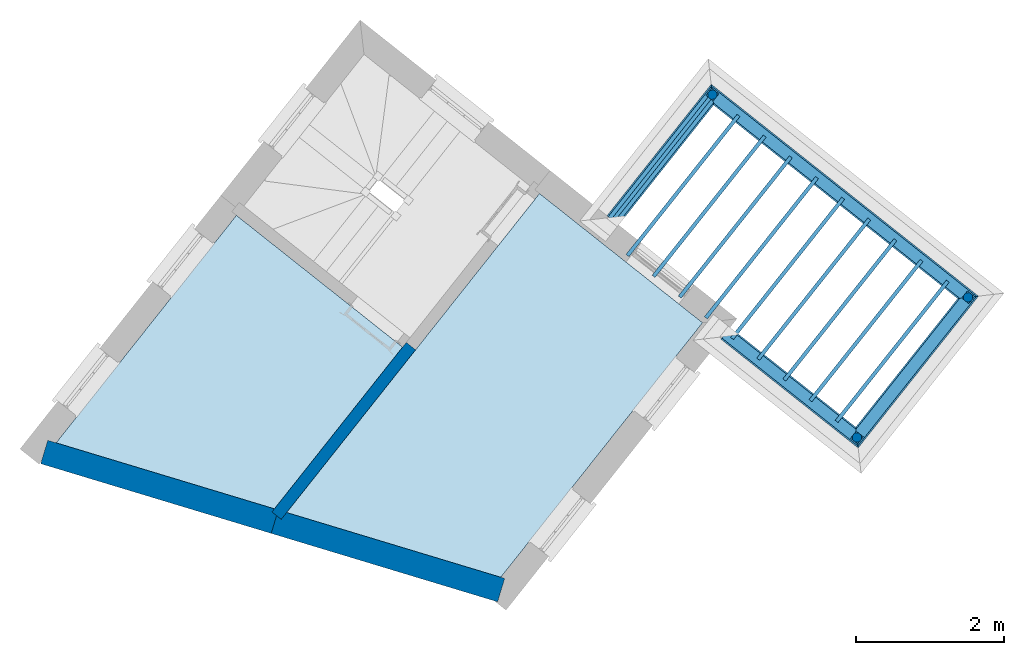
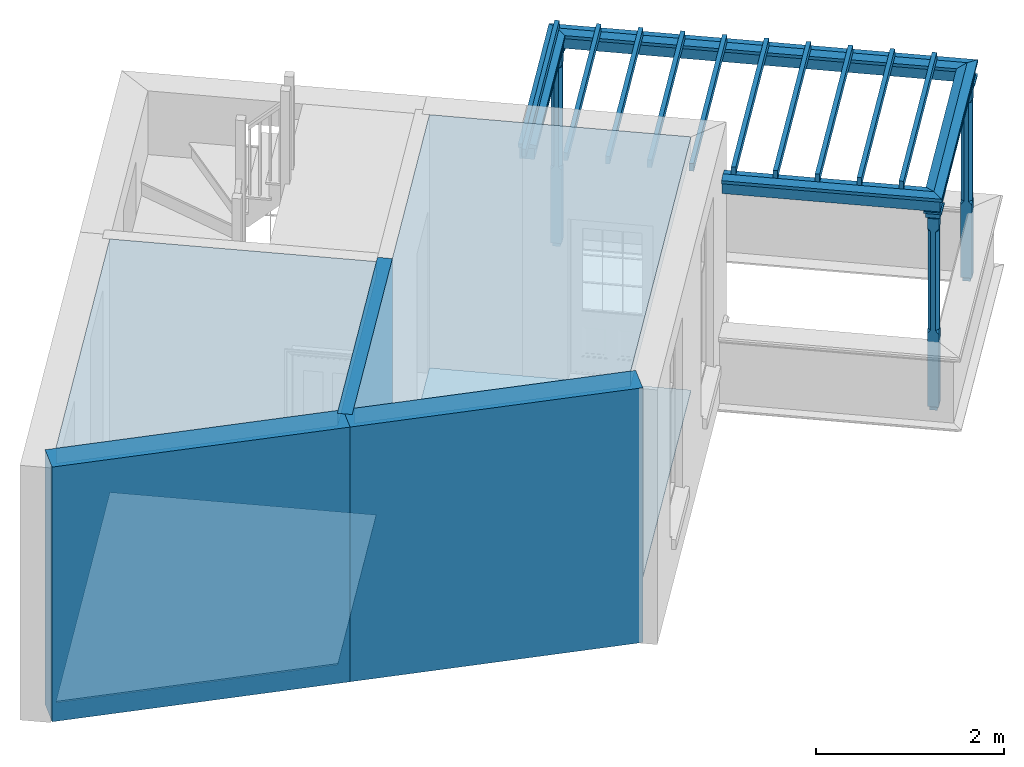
# One storey, part 1 of 6: 18 beams, 4 slabs, 3 columns, 3 walls.
"""IFC4 building model written with IfcOpenShell, lengths in metres."""

from ifc_helpers import new_model, si_unit, frame, origin, origin_with_axes, place, context, subcontext, project, spatial, polyline, outline, extrude, clip, halfspace, faceted_brep, source, transform, mapped, material, layer, layer_set, layer_usage, material_profile, profile_set, profile_usage, type_object, type_shapes, element, save


model = new_model("IFC4")

# Units and contexts
model_context = context("Model", 3, world=origin_with_axes())
body_context = subcontext(model_context, "Body", "Model", "MODEL_VIEW")
ifc_project = project(units=[si_unit("PLANEANGLEUNIT", "RADIAN"), si_unit("MASSUNIT", "GRAM", prefix="KILO"), si_unit("FORCEUNIT", "NEWTON", prefix="KILO"), si_unit("LENGTHUNIT", "METRE"), si_unit("AREAUNIT", "SQUARE_METRE"), si_unit("VOLUMEUNIT", "CUBIC_METRE")], contexts=[model_context, model_context])

# Sites, building, storey
site_1_placement = place(None, origin_with_axes())
site_1 = spatial("IfcSite", under=ifc_project, at=site_1_placement, Name="Tamar")
site_2_placement = place(site_1_placement, origin_with_axes())
site_2 = spatial("IfcSite", under=site_1, at=site_2_placement, Name="Site plot-5", CompositionType="ELEMENT")
building_placement = place(None, origin_with_axes())
building = spatial("IfcBuilding", under=site_2, at=building_placement, Name="Building plot-5", CompositionType="ELEMENT")
storey_placement = place(None, frame((0.0, 0.0, 26.85), z_axis=(0.0, 0.0, 1.0), x_axis=(1.0, 0.0, 0.0)))
storey = spatial("IfcBuildingStorey", under=building, at=storey_placement, Name="plot-5 1", CompositionType="ELEMENT", Elevation=26.85)

# Columns
column_type = type_object("IfcColumnType", Name="pergola post", PredefinedType="NOTDEFINED")
shared_shape = source(origin(), body_context, "Body", "Brep", [
    faceted_brep([(0.0246, -0.0615, 2.32), (0.0615, -0.0246, 2.32), (0.0615, -0.0615, 2.366667), (0.0615, -0.0246, 1.044444), (0.0246, -0.0615, 1.044444), (0.0615, 0.0246, 2.32), (0.0615, 0.0615, 2.366667), (-0.0246, -0.0615, 2.32), (-0.0615, -0.0615, 2.366667), (-0.0246, -0.0615, 1.044444), (0.0615, -0.0615, 0.997778), (0.0615, 0.0246, 1.044444), (0.0246, 0.0615, 2.32), (0.0615, 0.0615, 2.491111), (0.0615, -0.0615, 2.491111), (-0.0615, -0.0615, 2.491111), (-0.0615, -0.0246, 2.32), (-0.0615, -0.0246, 1.044444), (-0.0615, -0.0615, 0.997778), (0.0615, 0.0615, 0.997778), (0.0246, 0.0615, 1.044444), (-0.0246, 0.0615, 2.32), (-0.0615, 0.0615, 2.366667), (0.04305, 0.04305, 2.491111), (0.04305, -0.04305, 2.491111), (-0.0615, 0.0615, 2.491111), (-0.04305, -0.04305, 2.491111), (-0.0615, 0.0246, 2.32), (-0.0615, 0.0246, 1.044444), (0.0615, -0.0615, 0.053333), (-0.0615, -0.0615, 0.053333), (0.0615, 0.0615, 0.053333), (-0.0246, 0.0615, 1.044444), (-0.04305, 0.04305, 2.491111), (0.04305, 0.04305, 2.514444), (0.04305, -0.04305, 2.514444), (-0.04305, -0.04305, 2.514444), (-0.0615, 0.0615, 0.997778), (-0.0615, 0.0615, 0.053333), (-0.04305, -0.04305, 0.053333), (0.04305, -0.04305, 0.053333), (0.04305, 0.04305, 0.053333), (-0.04305, 0.04305, 2.514444), (0.07995, 0.07995, 2.514444), (0.07995, -0.07995, 2.514444), (-0.07995, -0.07995, 2.514444), (-0.04305, 0.04305, 0.053333), (-0.04305, -0.04305, 0.0), (0.04305, -0.04305, 0.0), (0.04305, 0.04305, 0.0), (-0.07995, 0.07995, 2.514444), (0.07995, 0.07995, 2.576667), (0.07995, -0.07995, 2.576667), (-0.07995, -0.07995, 2.576667), (-0.04305, 0.04305, 0.0), (-0.07995, 0.07995, 2.576667), (0.0984, 0.0984, 2.576667), (0.0984, -0.0984, 2.576667), (-0.0984, -0.0984, 2.576667), (-0.0984, 0.0984, 2.576667), (0.0984, 0.0984, 2.6), (0.0984, -0.0984, 2.6), (-0.0984, -0.0984, 2.6), (-0.0984, 0.0984, 2.6)], [[[0, 1, 2]], [[3, 1, 0, 4]], [[1, 5, 6, 2]], [[7, 0, 2, 8]], [[4, 0, 7, 9]], [[3, 4, 10]], [[1, 3, 11, 5]], [[5, 12, 6]], [[13, 14, 2, 6]], [[15, 8, 2, 14]], [[8, 16, 7]], [[9, 7, 16, 17]], [[9, 18, 10, 4]], [[3, 10, 19, 11]], [[20, 12, 5, 11]], [[21, 22, 6, 12]], [[14, 13, 23, 24]], [[13, 6, 22, 25]], [[25, 22, 8, 15]], [[26, 15, 14, 24]], [[16, 8, 22, 27]], [[27, 28, 17, 16]], [[17, 18, 9]], [[29, 10, 18, 30]], [[31, 19, 10, 29]], [[20, 11, 19]], [[12, 20, 32, 21]], [[21, 27, 22]], [[33, 23, 13, 25]], [[23, 34, 35, 24]], [[26, 33, 25, 15]], [[36, 26, 24, 35]], [[28, 27, 21, 32]], [[17, 28, 37, 18]], [[38, 30, 18, 37]], [[29, 30, 39, 40]], [[31, 38, 37, 19]], [[40, 41, 31, 29]], [[32, 20, 19, 37]], [[33, 42, 34, 23]], [[43, 44, 35, 34]], [[42, 33, 26, 36]], [[36, 35, 44, 45]], [[28, 32, 37]], [[46, 39, 30, 38]], [[39, 47, 48, 40]], [[46, 38, 31, 41]], [[49, 41, 40, 48]], [[43, 34, 42, 50]], [[43, 51, 52, 44]], [[45, 50, 42, 36]], [[53, 45, 44, 52]], [[46, 54, 47, 39]], [[54, 46, 41, 49]], [[50, 55, 51, 43]], [[56, 57, 52, 51]], [[55, 50, 45, 53]], [[53, 52, 57, 58]], [[56, 51, 55, 59]], [[56, 60, 61, 57]], [[58, 59, 55, 53]], [[62, 58, 57, 61]], [[59, 63, 60, 56]], [[63, 62, 61, 60]], [[58, 62, 63, 59]], [[47, 54, 49, 48]]]),
])
type_shapes(column_type, [shared_shape])
for number, where, z_axis, x_axis, name in (
    (1, (236.177568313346, 272.272520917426, 0.0), (0.0, 0.0, 1.0), (0.621192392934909, 0.783658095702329, 0.0), "pergola post"),
    (2, (237.676279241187, 274.163202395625, 0.0), (0.0, 0.0, 1.0), (-0.78365809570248, 0.621192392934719, 0.0), "pergola post"),
    (3, (234.228257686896, 276.89639021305, 0.0), (0.0, 0.0, 1.0), (-0.621192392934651, -0.783658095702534, 0.0), "pergola post"),
):
    element("IfcColumn", number, at=place(storey_placement, frame(where, z_axis=z_axis, x_axis=x_axis)), inside=storey, type_object=column_type, Name=name, context=body_context, shape_type="MappedRepresentation", body=[
        mapped(shared_shape, transform((0.0, 0.0, 0.0), scale=1.0)),
    ])

# Beams
ifc_material_profile_1 = material_profile(None, outline(polyline([(-0.08, -0.7), (0.08, -0.7), (0.08, -0.56), (-0.08, -0.56), (-0.08, -0.7)])))
ifc_profile_set_1 = profile_set([ifc_material_profile_1])
ifc_profile_usage_1 = profile_usage(ifc_profile_set_1)
beam_type_1 = type_object("IfcBeamType", Name="pergola beam_0", PredefinedType="NOTDEFINED", material=ifc_profile_set_1)
beam_1_placement = place(storey_placement, frame((236.961226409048, 271.651328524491, 3.3), z_axis=(-0.783658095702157, 0.621192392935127, 0.0), x_axis=(-0.621192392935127, -0.783658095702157, 0.0)))
element("IfcBeam", 4, at=beam_1_placement, inside=storey, type_object=beam_type_1, material=ifc_profile_usage_1, Name="pergola beam_0", context=body_context, shape_type="Clipping", body=[
    clip(clip(extrude(outline(polyline([(-0.08, -0.7), (0.08, -0.7), (0.08, -0.56), (-0.08, -0.56), (-0.08, -0.7)])), origin_with_axes(), (0.0, 0.0, 1.0), 4.26289073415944), halfspace(frame((0.0, 0.0, 3.26289073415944), z_axis=(-5.83439206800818e-15, 0.0, -1.0), x_axis=(0.0, 1.0, 0.0)), True)), halfspace(frame((0.0, 0.0, 1.0), z_axis=(-0.707106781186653, 0.0, -0.707106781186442), x_axis=(0.0, 1.0, 0.0)), False)),
])
ifc_profile_usage_2 = profile_usage(ifc_profile_set_1)
beam_2_placement = place(storey_placement, frame((238.297471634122, 274.946860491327, 3.3), z_axis=(-0.62119239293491, -0.783658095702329, 0.0), x_axis=(0.783658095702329, -0.62119239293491, 0.0)))
element("IfcBeam", 5, at=beam_2_placement, inside=storey, type_object=beam_type_1, material=ifc_profile_usage_2, Name="pergola beam_0", context=body_context, shape_type="Clipping", body=[
    clip(clip(extrude(outline(polyline([(-0.08, -0.7), (0.08, -0.7), (0.08, -0.56), (-0.08, -0.56), (-0.08, -0.7)])), origin_with_axes(), (0.0, 0.0, 1.0), 4.41263567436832), halfspace(frame((0.0, 0.0, 3.41263567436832), z_axis=(0.707106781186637, 0.0, -0.707106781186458), x_axis=(0.0, 1.0, 0.0)), True)), halfspace(frame((0.0, 0.0, 1.0), z_axis=(-0.707106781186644, 0.0, -0.707106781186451), x_axis=(0.0, 1.0, 0.0)), False)),
])
ifc_profile_usage_3 = profile_usage(ifc_profile_set_1)
beam_3_placement = place(storey_placement, frame((233.444599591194, 277.517582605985, 3.3), z_axis=(0.783658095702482, -0.621192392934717, 0.0), x_axis=(0.621192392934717, 0.783658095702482, 0.0)))
element("IfcBeam", 6, at=beam_3_placement, inside=storey, type_object=beam_type_1, material=ifc_profile_usage_3, Name="pergola beam_0", context=body_context, shape_type="Clipping", body=[
    clip(clip(extrude(outline(polyline([(-0.08, -0.7), (0.08, -0.7), (0.08, -0.56), (-0.08, -0.56), (-0.08, -0.7)])), origin_with_axes(), (0.0, 0.0, 1.0), 6.39990548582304), halfspace(frame((0.0, 0.0, 5.39990548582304), z_axis=(0.707106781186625, 0.0, -0.70710678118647), x_axis=(0.0, 1.0, 0.0)), True)), halfspace(frame((0.0, 0.0, 1.0), z_axis=(-0.707106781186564, 0.0, -0.70710678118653), x_axis=(0.0, 1.0, 0.0)), False)),
])
ifc_profile_usage_4 = profile_usage(ifc_profile_set_1)
beam_4_placement = place(storey_placement, frame((232.263652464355, 274.417965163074, 3.3), z_axis=(0.62119239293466, 0.783658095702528, 0.0), x_axis=(-0.783658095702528, 0.62119239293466, 0.0)))
element("IfcBeam", 7, at=beam_4_placement, inside=storey, type_object=beam_type_1, material=ifc_profile_usage_4, Name="pergola beam_0", context=body_context, shape_type="Clipping", body=[
    clip(clip(extrude(outline(polyline([(-0.08, -0.7), (0.08, -0.7), (0.08, -0.56), (-0.08, -0.56), (-0.08, -0.7)])), origin_with_axes(), (0.0, 0.0, 1.0), 4.16263567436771), halfspace(frame((0.0, 0.0, 3.16263567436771), z_axis=(0.707106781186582, 0.0, -0.707106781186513), x_axis=(0.0, 1.0, 0.0)), True)), halfspace(frame((0.0, 0.0, 1.0), z_axis=(-1.78248007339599e-14, 0.0, -1.0), x_axis=(0.0, 1.0, 0.0)), False)),
])
ifc_material_profile_2 = material_profile(None, outline(polyline([(0.0, -0.5), (-0.1, -0.52), (-0.1, -0.56), (0.1, -0.56), (0.1, -0.52), (0.0, -0.5)])))
ifc_profile_set_2 = profile_set([ifc_material_profile_2])
ifc_profile_usage_5 = profile_usage(ifc_profile_set_2)
beam_type_2 = type_object("IfcBeamType", Name="pergola beam_1", PredefinedType="NOTDEFINED", material=ifc_profile_set_2)
beam_5_placement = place(storey_placement, frame((236.961226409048, 271.651328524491, 3.3), z_axis=(-0.783658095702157, 0.621192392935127, 0.0), x_axis=(-0.621192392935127, -0.783658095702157, 0.0)))
element("IfcBeam", 8, at=beam_5_placement, inside=storey, type_object=beam_type_2, material=ifc_profile_usage_5, Name="pergola beam_1", context=body_context, shape_type="Clipping", body=[
    clip(clip(extrude(outline(polyline([(0.0, -0.5), (-0.1, -0.52), (-0.1, -0.56), (0.1, -0.56), (0.1, -0.52), (0.0, -0.5)])), origin_with_axes(), (0.0, 0.0, 1.0), 4.26289073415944), halfspace(frame((0.0, 0.0, 3.26289073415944), z_axis=(-5.83439206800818e-15, 0.0, -1.0), x_axis=(0.0, 1.0, 0.0)), True)), halfspace(frame((0.0, 0.0, 1.0), z_axis=(-0.707106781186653, 0.0, -0.707106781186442), x_axis=(0.0, 1.0, 0.0)), False)),
])
ifc_profile_usage_6 = profile_usage(ifc_profile_set_2)
beam_6_placement = place(storey_placement, frame((238.297471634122, 274.946860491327, 3.3), z_axis=(-0.62119239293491, -0.783658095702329, 0.0), x_axis=(0.783658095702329, -0.62119239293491, 0.0)))
element("IfcBeam", 9, at=beam_6_placement, inside=storey, type_object=beam_type_2, material=ifc_profile_usage_6, Name="pergola beam_1", context=body_context, shape_type="Clipping", body=[
    clip(clip(extrude(outline(polyline([(0.0, -0.5), (-0.1, -0.52), (-0.1, -0.56), (0.1, -0.56), (0.1, -0.52), (0.0, -0.5)])), origin_with_axes(), (0.0, 0.0, 1.0), 4.41263567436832), halfspace(frame((0.0, 0.0, 3.41263567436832), z_axis=(0.707106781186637, 0.0, -0.707106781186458), x_axis=(0.0, 1.0, 0.0)), True)), halfspace(frame((0.0, 0.0, 1.0), z_axis=(-0.707106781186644, 0.0, -0.707106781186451), x_axis=(0.0, 1.0, 0.0)), False)),
])
ifc_profile_usage_7 = profile_usage(ifc_profile_set_2)
beam_7_placement = place(storey_placement, frame((233.444599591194, 277.517582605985, 3.3), z_axis=(0.783658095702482, -0.621192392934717, 0.0), x_axis=(0.621192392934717, 0.783658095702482, 0.0)))
element("IfcBeam", 10, at=beam_7_placement, inside=storey, type_object=beam_type_2, material=ifc_profile_usage_7, Name="pergola beam_1", context=body_context, shape_type="Clipping", body=[
    clip(clip(extrude(outline(polyline([(0.0, -0.5), (-0.1, -0.52), (-0.1, -0.56), (0.1, -0.56), (0.1, -0.52), (0.0, -0.5)])), origin_with_axes(), (0.0, 0.0, 1.0), 6.39990548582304), halfspace(frame((0.0, 0.0, 5.39990548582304), z_axis=(0.707106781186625, 0.0, -0.70710678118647), x_axis=(0.0, 1.0, 0.0)), True)), halfspace(frame((0.0, 0.0, 1.0), z_axis=(-0.707106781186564, 0.0, -0.70710678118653), x_axis=(0.0, 1.0, 0.0)), False)),
])
ifc_profile_usage_8 = profile_usage(ifc_profile_set_2)
beam_8_placement = place(storey_placement, frame((232.263652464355, 274.417965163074, 3.3), z_axis=(0.62119239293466, 0.783658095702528, 0.0), x_axis=(-0.783658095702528, 0.62119239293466, 0.0)))
element("IfcBeam", 11, at=beam_8_placement, inside=storey, type_object=beam_type_2, material=ifc_profile_usage_8, Name="pergola beam_1", context=body_context, shape_type="Clipping", body=[
    clip(clip(extrude(outline(polyline([(0.0, -0.5), (-0.1, -0.52), (-0.1, -0.56), (0.1, -0.56), (0.1, -0.52), (0.0, -0.5)])), origin_with_axes(), (0.0, 0.0, 1.0), 4.16263567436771), halfspace(frame((0.0, 0.0, 3.16263567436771), z_axis=(0.707106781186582, 0.0, -0.707106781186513), x_axis=(0.0, 1.0, 0.0)), True)), halfspace(frame((0.0, 0.0, 1.0), z_axis=(-1.78248007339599e-14, 0.0, -1.0), x_axis=(0.0, 1.0, 0.0)), False)),
])
beam_9_placement = place(storey_placement, frame((232.709955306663, 275.021238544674, 2.8)))
element("IfcBeam", 12, at=beam_9_placement, inside=storey, Name="My Beam", ObjectType="Beam", context=body_context, shape_type="SweptSolid", body=[
    extrude(outline(polyline([(0.0, 0.0), (0.0391829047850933, -0.0310596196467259), (1.53789383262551, 1.85962185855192), (1.49871092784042, 1.89068147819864), (0.0, 0.0)])), origin_with_axes(), (0.0, 0.0, 1.0), 0.1),
])
beam_10_placement = place(storey_placement, frame((233.06260144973, 274.741701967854, 2.8)))
element("IfcBeam", 13, at=beam_10_placement, inside=storey, Name="My Beam", ObjectType="Beam", context=body_context, shape_type="SweptSolid", body=[
    extrude(outline(polyline([(0.0, 0.0), (0.0391829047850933, -0.0310596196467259), (1.53789383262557, 1.85962185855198), (1.49871092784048, 1.8906814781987), (0.0, 0.0)])), origin_with_axes(), (0.0, 0.0, 1.0), 0.1),
])
beam_11_placement = place(storey_placement, frame((233.415247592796, 274.462165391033, 2.8)))
element("IfcBeam", 14, at=beam_11_placement, inside=storey, Name="My Beam", ObjectType="Beam", context=body_context, shape_type="SweptSolid", body=[
    extrude(outline(polyline([(0.0, 0.0), (0.0391829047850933, -0.0310596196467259), (1.5378938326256, 1.85962185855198), (1.49871092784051, 1.8906814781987), (0.0, 0.0)])), origin_with_axes(), (0.0, 0.0, 1.0), 0.1),
])
beam_12_placement = place(storey_placement, frame((233.767893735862, 274.182628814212, 2.8)))
element("IfcBeam", 15, at=beam_12_placement, inside=storey, Name="My Beam", ObjectType="Beam", context=body_context, shape_type="SweptSolid", body=[
    extrude(outline(polyline([(0.0, 0.0), (0.0391829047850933, -0.0310596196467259), (1.53789383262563, 1.85962185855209), (1.49871092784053, 1.89068147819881), (0.0, 0.0)])), origin_with_axes(), (0.0, 0.0, 1.0), 0.1),
])
beam_13_placement = place(storey_placement, frame((234.120539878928, 273.903092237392, 2.8)))
element("IfcBeam", 16, at=beam_13_placement, inside=storey, Name="My Beam", ObjectType="Beam", context=body_context, shape_type="SweptSolid", body=[
    extrude(outline(polyline([(0.0, 0.0), (0.0391829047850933, -0.0310596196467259), (1.53789383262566, 1.85962185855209), (1.49871092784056, 1.89068147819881), (0.0, 0.0)])), origin_with_axes(), (0.0, 0.0, 1.0), 0.1),
])
beam_14_placement = place(storey_placement, frame((234.473186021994, 273.623555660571, 2.8)))
element("IfcBeam", 17, at=beam_14_placement, inside=storey, Name="My Beam", ObjectType="Beam", context=body_context, shape_type="SweptSolid", body=[
    extrude(outline(polyline([(0.0, 0.0), (0.0391829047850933, -0.0310596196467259), (1.53789383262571, 1.85962185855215), (1.49871092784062, 1.89068147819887), (0.0, 0.0)])), origin_with_axes(), (0.0, 0.0, 1.0), 0.1),
])
beam_15_placement = place(storey_placement, frame((234.82583216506, 273.34401908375, 2.8)))
element("IfcBeam", 18, at=beam_15_placement, inside=storey, Name="My Beam", ObjectType="Beam", context=body_context, shape_type="SweptSolid", body=[
    extrude(outline(polyline([(0.0, 0.0), (0.0391829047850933, -0.0310596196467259), (1.53789383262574, 1.8596218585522), (1.49871092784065, 1.89068147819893), (0.0, 0.0)])), origin_with_axes(), (0.0, 0.0, 1.0), 0.1),
])
beam_16_placement = place(storey_placement, frame((235.178478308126, 273.06448250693, 2.8)))
element("IfcBeam", 19, at=beam_16_placement, inside=storey, Name="My Beam", ObjectType="Beam", context=body_context, shape_type="SweptSolid", body=[
    extrude(outline(polyline([(0.0, 0.0), (0.0391829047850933, -0.0310596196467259), (1.5378938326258, 1.85962185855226), (1.4987109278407, 1.89068147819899), (0.0, 0.0)])), origin_with_axes(), (0.0, 0.0, 1.0), 0.1),
])
beam_17_placement = place(storey_placement, frame((235.531124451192, 272.784945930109, 2.8)))
element("IfcBeam", 20, at=beam_17_placement, inside=storey, Name="My Beam", ObjectType="Beam", context=body_context, shape_type="SweptSolid", body=[
    extrude(outline(polyline([(0.0, 0.0), (0.0391829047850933, -0.0310596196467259), (1.53789383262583, 1.85962185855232), (1.49871092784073, 1.89068147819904), (0.0, 0.0)])), origin_with_axes(), (0.0, 0.0, 1.0), 0.1),
])
beam_18_placement = place(storey_placement, frame((235.883770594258, 272.505409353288, 2.8)))
element("IfcBeam", 21, at=beam_18_placement, inside=storey, Name="My Beam", ObjectType="Beam", context=body_context, shape_type="SweptSolid", body=[
    extrude(outline(polyline([(0.0, 0.0), (0.0391829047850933, -0.0310596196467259), (1.53789383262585, 1.85962185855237), (1.49871092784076, 1.8906814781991), (0.0, 0.0)])), origin_with_axes(), (0.0, 0.0, 1.0), 0.1),
])

# Slabs
slab_1_placement = place(storey_placement, frame((227.808341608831, 275.268996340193, 3.1)))
element("IfcSlab", 22, at=slab_1_placement, inside=storey, Name="My Slab", ObjectType="Slab", PredefinedType="FLOOR", context=body_context, shape_type="SweptSolid", body=[
    extrude(outline(polyline([(0.0, 0.0), (-2.43185355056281, -3.06787678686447), (0.512546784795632, -3.95796079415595), (2.24151023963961, -1.77680689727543), (0.0, 0.0)])), origin_with_axes(), (0.0, 0.0, 1.0), 0.2),
])
slab_2_placement = place(storey_placement, frame((227.808341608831, 275.268996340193, 0.0)))
element("IfcSlab", 23, at=slab_2_placement, inside=storey, Name="My Slab", ObjectType="Slab", PredefinedType="FLOOR", context=body_context, shape_type="SweptSolid", body=[
    extrude(outline(polyline([(0.0, 0.0), (-2.43185355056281, -3.06787678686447), (0.512546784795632, -3.95796079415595), (2.24151023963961, -1.77680689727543), (0.0, 0.0)])), origin_with_axes(), (0.0, 0.0, 1.0), 0.02),
])
slab_3_placement = place(storey_placement, frame((234.095933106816, 273.820512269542, 3.1)))
element("IfcSlab", 24, at=slab_3_placement, inside=storey, Name="My Slab", ObjectType="Slab", PredefinedType="FLOOR", context=body_context, shape_type="SweptSolid", body=[
    extrude(outline(polyline([(0.0, 0.0), (-2.19956581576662, 1.74355826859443), (-5.61034124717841, -2.55926612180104), (-2.72103821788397, -3.43269436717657), (0.0, 0.0)])), origin_with_axes(), (0.0, 0.0, 1.0), 0.2),
])
slab_4_placement = place(storey_placement, frame((234.095933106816, 273.820512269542, 0.0)))
element("IfcSlab", 25, at=slab_4_placement, inside=storey, Name="My Slab", ObjectType="Slab", PredefinedType="FLOOR", context=body_context, shape_type="SweptSolid", body=[
    extrude(outline(polyline([(0.0, 0.0), (-2.19956581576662, 1.74355826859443), (-5.61034124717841, -2.55926612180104), (-2.72103821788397, -3.43269436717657), (0.0, 0.0)])), origin_with_axes(), (0.0, 0.0, 1.0), 0.02),
])

# Walls
ifc_material_1 = material(Name="Masonry")
ifc_layer_1 = layer(ifc_material_1, 0.33, ventilated=False)
ifc_layer_set_1 = layer_set([ifc_layer_1], Name="party_0.08_0.25")
ifc_layer_usage_1 = layer_usage(ifc_layer_set_1, "AXIS2", "POSITIVE", -0.25)
wall_type_1 = type_object("IfcWallType", Name="party_0.08_0.25", PredefinedType="SOLIDWALL", material=ifc_layer_set_1)
wall_1_placement = place(storey_placement, frame((225.240693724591, 272.158594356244, 0.0), z_axis=(0.0, 0.0, 1.0), x_axis=(0.95721894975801, -0.289364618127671, 0.0)))
element("IfcWall", 26, at=wall_1_placement, inside=storey, type_object=wall_type_1, material=ifc_layer_usage_1, Name="party", context=body_context, shape_type="SweptSolid", body=[
    extrude(outline(polyline([(1.65691044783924e-15, 0.08000000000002), (-6.04112858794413e-15, -0.250000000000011), (3.24805918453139, -0.25000000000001), (3.2480591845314, 0.08000000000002), (1.65691044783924e-15, 0.08000000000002)])), origin_with_axes(), (0.0, 0.0, 1.0), 3.3),
])
wall_2_placement = place(storey_placement, frame((228.34979752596, 271.218720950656, 0.0), z_axis=(0.0, 0.0, 1.0), x_axis=(0.957218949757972, -0.289364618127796, 0.0)))
element("IfcWall", 27, at=wall_2_placement, inside=storey, type_object=wall_type_1, material=ifc_layer_usage_1, Name="party", context=body_context, shape_type="SweptSolid", body=[
    extrude(outline(polyline([(-8.75254063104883e-15, 0.08000000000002), (2.65994283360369e-14, -0.250000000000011), (3.19049941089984, -0.250000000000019), (3.19049941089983, 0.08000000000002), (-8.75254063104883e-15, 0.08000000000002)])), origin_with_axes(), (0.0, 0.0, 1.0), 3.3),
])
ifc_material_2 = material(Name="Masonry")
ifc_layer_2 = layer(ifc_material_2, 0.16, ventilated=False)
ifc_layer_set_2 = layer_set([ifc_layer_2], Name="interior_0.08_0.08")
ifc_layer_usage_2 = layer_usage(ifc_layer_set_2, "AXIS2", "POSITIVE", -0.08)
wall_type_2 = type_object("IfcWallType", Name="interior_0.08_0.08", PredefinedType="SOLIDWALL", material=ifc_layer_set_2)
wall_3_placement = place(storey_placement, frame((230.162239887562, 273.505186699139, 0.0), z_axis=(0.0, 0.0, 1.0), x_axis=(-0.621192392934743, -0.783658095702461, 0.0)))
element("IfcWall", 28, at=wall_3_placement, inside=storey, type_object=wall_type_2, material=ifc_layer_usage_2, Name="interior", context=body_context, shape_type="SweptSolid", body=[
    extrude(outline(polyline([(6.80651450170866e-15, 0.0800000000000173), (-6.78078453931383e-15, -0.0800000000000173), (2.91768280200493, -0.080000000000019), (2.91768280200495, 0.0800000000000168), (6.80651450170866e-15, 0.0800000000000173)])), origin_with_axes(), (0.0, 0.0, 1.0), 3.3),
])

save(model, "model.ifc")
